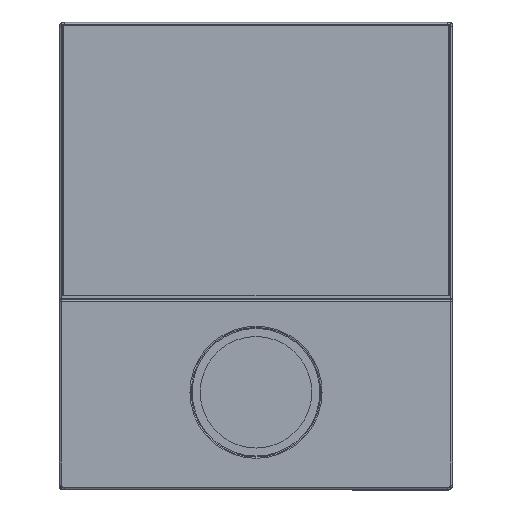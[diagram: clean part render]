
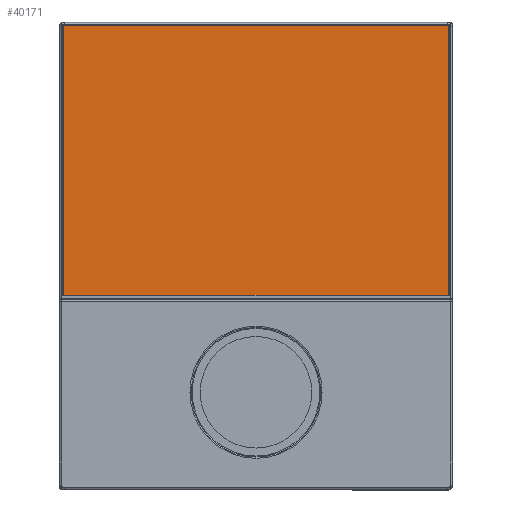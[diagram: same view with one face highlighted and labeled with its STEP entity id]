
A CAD part, top view. The second image highlights one B-rep face of the part: STEP entity #40171.
In plain terms, the highlighted planar face has unit normal (0, 0, 1).
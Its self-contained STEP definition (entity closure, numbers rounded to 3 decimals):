
#801 = ORIENTED_EDGE ( 'NONE', *, *, #43571, .T. ) ;
#3065 = ORIENTED_EDGE ( 'NONE', *, *, #59453, .T. ) ;
#6200 = ORIENTED_EDGE ( 'NONE', *, *, #69930, .T. ) ;
#8440 = ORIENTED_EDGE ( 'NONE', *, *, #67890, .T. ) ;
#9235 = CARTESIAN_POINT ( 'NONE',  ( 62.25, 43.2, 0. ) ) ;
#11205 = VERTEX_POINT ( 'NONE', #29928 ) ;
#11861 = AXIS2_PLACEMENT_3D ( 'NONE', #53391, #18239, #59286 ) ;
#13267 = DIRECTION ( 'NONE',  ( 0., 0., 1. ) ) ;
#14410 = CARTESIAN_POINT ( 'NONE',  ( -62.1, -43.5, 0. ) ) ;
#14493 = VECTOR ( 'NONE', #63886, 1000. ) ;
#15204 = CIRCLE ( 'NONE', #24529, 0.15 ) ;
#15782 = CARTESIAN_POINT ( 'NONE',  ( -62.25, -43.35, 0. ) ) ;
#16905 = CARTESIAN_POINT ( 'NONE',  ( 62.1, -43.5, 0. ) ) ;
#16915 = VERTEX_POINT ( 'NONE', #22119 ) ;
#17676 = CARTESIAN_POINT ( 'NONE',  ( 62.25, -43.35, 0. ) ) ;
#18239 = DIRECTION ( 'NONE',  ( 0., 0., 1. ) ) ;
#18351 = CARTESIAN_POINT ( 'NONE',  ( -62.1, -43.35, 0. ) ) ;
#18480 = EDGE_CURVE ( 'NONE', #53344, #11205, #53287, .T. ) ;
#20079 = EDGE_CURVE ( 'NONE', #27322, #70547, #35654, .T. ) ;
#20759 = CARTESIAN_POINT ( 'NONE',  ( -62.1, -43.5, 0. ) ) ;
#21077 = CIRCLE ( 'NONE', #56984, 0.15 ) ;
#22042 = VECTOR ( 'NONE', #50192, 1000. ) ;
#22119 = CARTESIAN_POINT ( 'NONE',  ( 61.95, 43.5, 0. ) ) ;
#22172 = DIRECTION ( 'NONE',  ( 0., 0., 1. ) ) ;
#23611 = ORIENTED_EDGE ( 'NONE', *, *, #72373, .T. ) ;
#24261 = DIRECTION ( 'NONE',  ( 1., 0., 0. ) ) ;
#24465 = ORIENTED_EDGE ( 'NONE', *, *, #18480, .T. ) ;
#24529 = AXIS2_PLACEMENT_3D ( 'NONE', #68321, #33237, #74187 ) ;
#25898 = EDGE_CURVE ( 'NONE', #49323, #27322, #46999, .T. ) ;
#27322 = VERTEX_POINT ( 'NONE', #46124 ) ;
#29928 = CARTESIAN_POINT ( 'NONE',  ( 62.25, 43.2, 0. ) ) ;
#30610 = VERTEX_POINT ( 'NONE', #20759 ) ;
#33237 = DIRECTION ( 'NONE',  ( 0., 0., 1. ) ) ;
#33755 = PLANE ( 'NONE',  #67083 ) ;
#34726 = CARTESIAN_POINT ( 'NONE',  ( -61.95, 43.5, 0. ) ) ;
#35654 = LINE ( 'NONE', #72916, #37485 ) ;
#37485 = VECTOR ( 'NONE', #66515, 1000. ) ;
#38170 = ORIENTED_EDGE ( 'NONE', *, *, #20079, .T. ) ;
#40171 = ADVANCED_FACE ( 'NONE', ( #49842 ), #33755, .T. ) ;
#43571 = EDGE_CURVE ( 'NONE', #70547, #30610, #21077, .T. ) ;
#46124 = CARTESIAN_POINT ( 'NONE',  ( -62.25, 43.2, 0. ) ) ;
#46267 = EDGE_LOOP ( 'NONE', ( #68549, #38170, #801, #6200, #23611, #24465, #3065, #8440 ) ) ;
#46999 = CIRCLE ( 'NONE', #61234, 0.3 ) ;
#48334 = CARTESIAN_POINT ( 'NONE',  ( -61.95, 43.2, 0. ) ) ;
#48674 = CARTESIAN_POINT ( 'NONE',  ( -61.95, 43.5, 0. ) ) ;
#49323 = VERTEX_POINT ( 'NONE', #48674 ) ;
#49842 = FACE_OUTER_BOUND ( 'NONE', #46267, .T. ) ;
#50192 = DIRECTION ( 'NONE',  ( 0., 1., 0. ) ) ;
#53287 = LINE ( 'NONE', #9235, #22042 ) ;
#53344 = VERTEX_POINT ( 'NONE', #17676 ) ;
#53391 = CARTESIAN_POINT ( 'NONE',  ( 61.95, 43.2, 0. ) ) ;
#54184 = DIRECTION ( 'NONE',  ( 1., 0., 0. ) ) ;
#56984 = AXIS2_PLACEMENT_3D ( 'NONE', #18351, #59391, #24261 ) ;
#57320 = CARTESIAN_POINT ( 'NONE',  ( -61.95, 43.2, 0. ) ) ;
#58236 = VERTEX_POINT ( 'NONE', #16905 ) ;
#59286 = DIRECTION ( 'NONE',  ( 1., 0., 0. ) ) ;
#59391 = DIRECTION ( 'NONE',  ( 0., 0., 1. ) ) ;
#59453 = EDGE_CURVE ( 'NONE', #11205, #16915, #63102, .T. ) ;
#59463 = VECTOR ( 'NONE', #61015, 1000. ) ;
#61015 = DIRECTION ( 'NONE',  ( 1., 0., 0. ) ) ;
#61227 = LINE ( 'NONE', #34726, #14493 ) ;
#61234 = AXIS2_PLACEMENT_3D ( 'NONE', #48334, #13267, #54184 ) ;
#63102 = CIRCLE ( 'NONE', #11861, 0.3 ) ;
#63186 = DIRECTION ( 'NONE',  ( 1., 0., 0. ) ) ;
#63886 = DIRECTION ( 'NONE',  ( -1., 0., 0. ) ) ;
#66515 = DIRECTION ( 'NONE',  ( 0., -1., 0. ) ) ;
#67083 = AXIS2_PLACEMENT_3D ( 'NONE', #57320, #22172, #63186 ) ;
#67890 = EDGE_CURVE ( 'NONE', #16915, #49323, #61227, .T. ) ;
#68321 = CARTESIAN_POINT ( 'NONE',  ( 62.1, -43.35, 0. ) ) ;
#68549 = ORIENTED_EDGE ( 'NONE', *, *, #25898, .T. ) ;
#69930 = EDGE_CURVE ( 'NONE', #30610, #58236, #75005, .T. ) ;
#70547 = VERTEX_POINT ( 'NONE', #15782 ) ;
#72373 = EDGE_CURVE ( 'NONE', #58236, #53344, #15204, .T. ) ;
#72916 = CARTESIAN_POINT ( 'NONE',  ( -62.25, 43.2, 0. ) ) ;
#74187 = DIRECTION ( 'NONE',  ( 1., 0., 0. ) ) ;
#75005 = LINE ( 'NONE', #14410, #59463 ) ;
